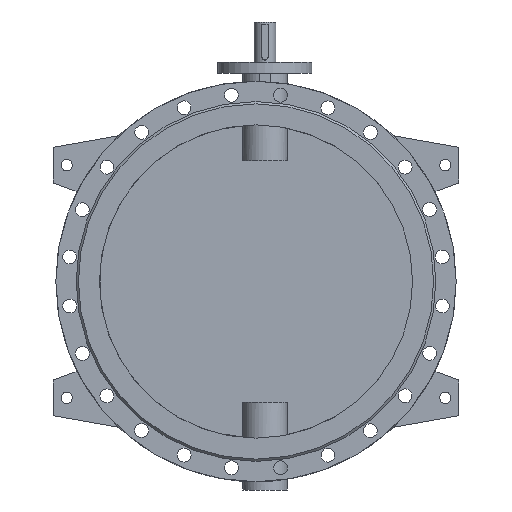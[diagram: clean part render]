
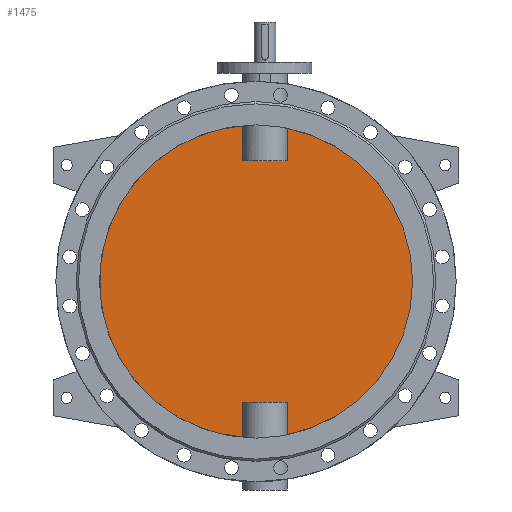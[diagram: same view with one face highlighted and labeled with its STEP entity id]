
A CAD part, front view. The second image highlights one B-rep face of the part: STEP entity #1475.
In plain terms, the highlighted planar face has unit normal (0, -1, 0).
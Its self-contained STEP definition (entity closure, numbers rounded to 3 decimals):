
#1475=ADVANCED_FACE('',(#3133),#3135,.F.);
#3133=FACE_BOUND('',#3134,.T.);
#3134=EDGE_LOOP('',(#3993,#3994,#3995,#3996,#3997,#3998,#3999,#4000));
#3135=PLANE('',#3136);
#3136=AXIS2_PLACEMENT_3D('',#3137,#3138,#3139);
#3137=CARTESIAN_POINT('',(0.,-5.,0.));
#3138=DIRECTION('',(0.,1.,0.));
#3139=DIRECTION('',(1.,0.,0.));
#3993=ORIENTED_EDGE('',*,*,#4423,.T.);
#3994=ORIENTED_EDGE('',*,*,#4439,.T.);
#3995=ORIENTED_EDGE('',*,*,#4440,.T.);
#3996=ORIENTED_EDGE('',*,*,#4441,.T.);
#3997=ORIENTED_EDGE('',*,*,#4425,.T.);
#3998=ORIENTED_EDGE('',*,*,#4442,.T.);
#3999=ORIENTED_EDGE('',*,*,#4443,.T.);
#4000=ORIENTED_EDGE('',*,*,#4444,.T.);
#4423=EDGE_CURVE('',#5119,#5120,#5121,.F.);
#4425=EDGE_CURVE('',#5124,#5122,#5125,.F.);
#4439=EDGE_CURVE('',#5120,#5151,#5152,.T.);
#4440=EDGE_CURVE('',#5151,#5153,#5154,.F.);
#4441=EDGE_CURVE('',#5153,#5124,#5155,.F.);
#4442=EDGE_CURVE('',#5122,#5156,#5157,.F.);
#4443=EDGE_CURVE('',#5156,#5158,#5159,.F.);
#4444=EDGE_CURVE('',#5158,#5119,#5160,.T.);
#5119=VERTEX_POINT('',#7436);
#5120=VERTEX_POINT('',#7437);
#5121=CIRCLE('',#7438,350.);
#5122=VERTEX_POINT('',#7442);
#5124=VERTEX_POINT('',#7484);
#5125=CIRCLE('',#7485,350.);
#5151=VERTEX_POINT('',#7884);
#5152=LINE('',#7885,#7886);
#5153=VERTEX_POINT('',#7888);
#5154=LINE('',#7889,#7890);
#5155=LINE('',#7892,#7893);
#5156=VERTEX_POINT('',#7895);
#5157=LINE('',#7896,#7897);
#5158=VERTEX_POINT('',#7899);
#5159=LINE('',#7900,#7901);
#5160=LINE('',#7903,#7904);
#7436=CARTESIAN_POINT('',(69.749,-5.,-342.98));
#7437=CARTESIAN_POINT('',(69.749,-5.,342.98));
#7438=AXIS2_PLACEMENT_3D('',#7439,#7440,#7441);
#7439=CARTESIAN_POINT('',(0.,-5.,0.));
#7440=DIRECTION('',(0.,1.,0.));
#7441=DIRECTION('',(0.199,0.,0.98));
#7442=CARTESIAN_POINT('',(-29.749,-5.,-348.733));
#7484=CARTESIAN_POINT('',(-29.749,-5.,348.733));
#7485=AXIS2_PLACEMENT_3D('',#7486,#7487,#7488);
#7486=CARTESIAN_POINT('',(0.,-5.,0.));
#7487=DIRECTION('',(0.,1.,0.));
#7488=DIRECTION('',(-0.085,0.,-0.996));
#7884=CARTESIAN_POINT('',(69.749,-5.,270.));
#7885=CARTESIAN_POINT('',(69.749,-5.,342.98));
#7886=VECTOR('',#7887,1.);
#7887=DIRECTION('',(0.,0.,-1.));
#7888=CARTESIAN_POINT('',(-29.749,-5.,270.));
#7889=CARTESIAN_POINT('',(-29.749,-5.,270.));
#7890=VECTOR('',#7891,1.);
#7891=DIRECTION('',(1.,0.,0.));
#7892=CARTESIAN_POINT('',(-29.749,-5.,348.733));
#7893=VECTOR('',#7894,1.);
#7894=DIRECTION('',(0.,0.,-1.));
#7895=CARTESIAN_POINT('',(-29.749,-5.,-270.));
#7896=CARTESIAN_POINT('',(-29.749,-5.,-270.));
#7897=VECTOR('',#7898,1.);
#7898=DIRECTION('',(0.,0.,-1.));
#7899=CARTESIAN_POINT('',(69.749,-5.,-270.));
#7900=CARTESIAN_POINT('',(69.749,-5.,-270.));
#7901=VECTOR('',#7902,1.);
#7902=DIRECTION('',(-1.,0.,0.));
#7903=CARTESIAN_POINT('',(69.749,-5.,-270.));
#7904=VECTOR('',#7905,1.);
#7905=DIRECTION('',(0.,0.,-1.));
